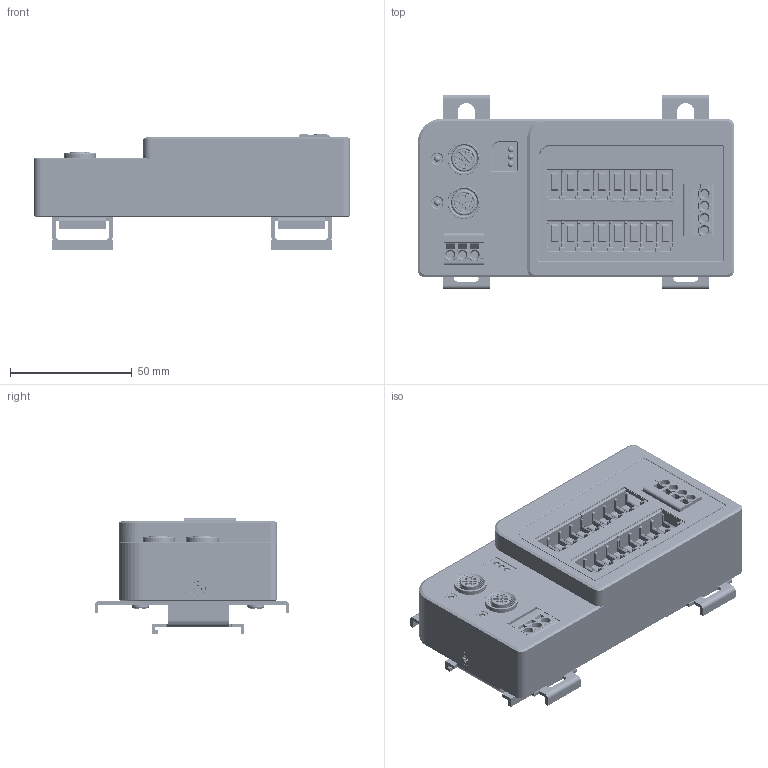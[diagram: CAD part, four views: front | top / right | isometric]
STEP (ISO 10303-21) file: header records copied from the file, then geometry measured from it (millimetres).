
FILE_DESCRIPTION((''),'2;1');
FILE_NAME('MR5101-EA_ASM_40_ASM_1_ASM','2025-04-16T10:25:48',('Administrator'),('yulong DESIGN'),'CREO PARAMETRIC BY PTC INC, 2021023','CREO PARAMETRIC BY PTC INC, 2021023','');
FILE_SCHEMA(('AUTOMOTIVE_DESIGN { 1 0 10303 214 1 1 1 1 }'));
Products named in the file (22): MR5101-EA_SKEL_3_1; FRONT_COVER_MR5101_36_1; REAR_COVER_MR5101_19_1; FRONT_PCBA_MR5101_24_1; REAR_PCBA_COMMON_26_1; DIN35_LATCH_L80_4_1_1; DIN35_LATCH_L80_4_2_1; DIN35_LATCH_L80_4_ASM_1_ASM; LIGHT_PIPE_11D7_PWR_13_1; LIGHT_PIPE_10_IO_6_1; MYLAR_NUBER_INDICATOR_MR5101_17; SCREW_PH_M2D5X5_4_1; SCREW_FLAT_M3X8_6_1; SCREW_PH_M4X6_3_1; SCREWS_ASM_2_ASM_1_ASM; EK-B403_1; DINKLE_0177-5304_1; DINKLE_0177-5303_1; _5_1__10001_101_13; _5_2__10001_101_13; M12D_10001_ASM_101_ASM_13_ASM; MR5101-EA_ASM_40_ASM_1_ASM
Assembly tree (56 placements, depth 3):
  MR5101-EA_ASM_40_ASM_1_ASM
    MR5101-EA_SKEL_3_1
    FRONT_COVER_MR5101_36_1
    REAR_COVER_MR5101_19_1
    FRONT_PCBA_MR5101_24_1
    REAR_PCBA_COMMON_26_1
    DIN35_LATCH_L80_4_ASM_1_ASM  x2
      DIN35_LATCH_L80_4_1_1
      DIN35_LATCH_L80_4_2_1
    LIGHT_PIPE_11D7_PWR_13_1  x5
    LIGHT_PIPE_10_IO_6_1  x16
    MYLAR_NUBER_INDICATOR_MR5101_17
    SCREWS_ASM_2_ASM_1_ASM
      SCREW_PH_M2D5X5_4_1  x8
      SCREW_FLAT_M3X8_6_1  x2
      SCREW_PH_M4X6_3_1  x4
    EK-B403_1  x4
    DINKLE_0177-5304_1
    DINKLE_0177-5303_1
    M12D_10001_ASM_101_ASM_13_ASM  x2
      _5_1__10001_101_13
      _5_2__10001_101_13
Bounding box: 129.95 x 80 x 47.4 mm (x, y, z)
Volume: 111592.5 mm3; surface area: 125311 mm2
Topology: 54 solids, 205 shells, 5569 faces, 16640 edges, 11455 vertices
Faces by surface type: plane 3232, cylinder 1495, cone 359, bspline 204, torus 196, sphere 57, revolution 24, extrusion 2
Entity records: 137282 total; most frequent: CARTESIAN_POINT 41964, ORIENTED_EDGE 15874, DIRECTION 15030, EDGE_CURVE 8935, VERTEX_POINT 6449, AXIS2_PLACEMENT_3D 5033, VECTOR 4960, LINE 4958
